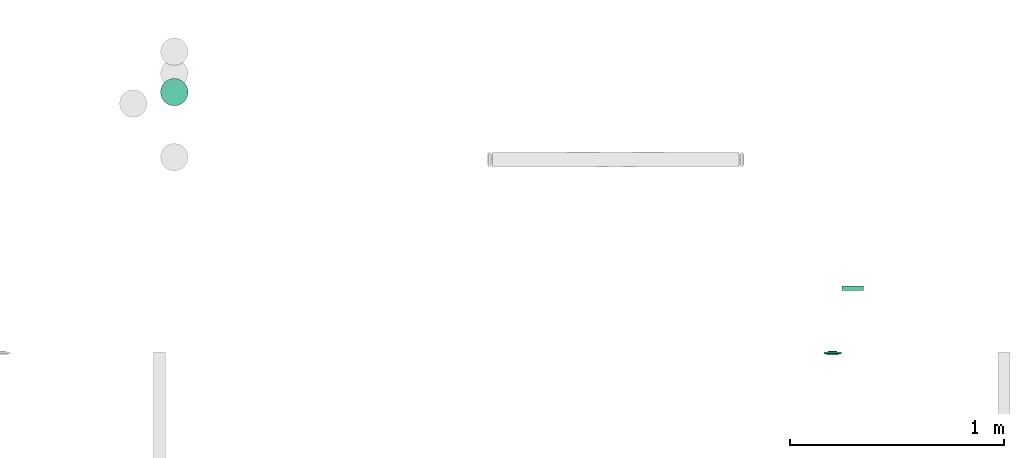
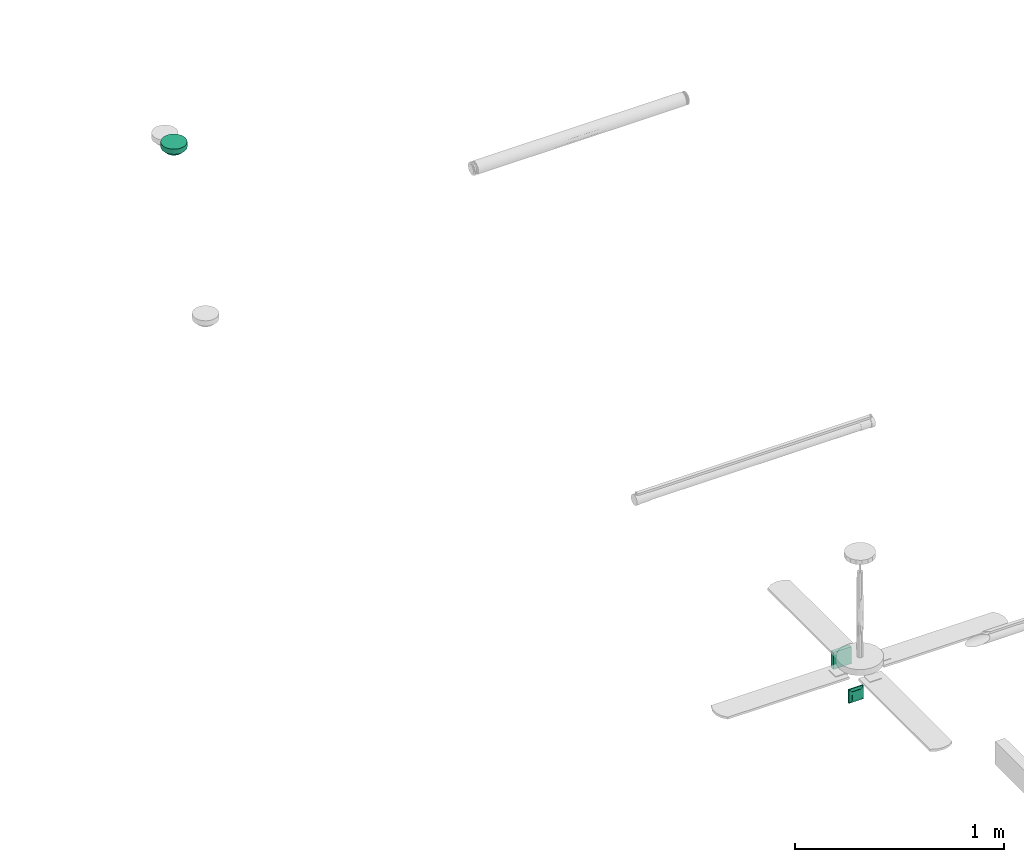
# One storey, part 141 of 153: 3 flow terminals.
"""IFC2X3 building model written with IfcOpenShell, lengths in metres."""

from ifc_helpers import new_model, entity, si_unit, converted_unit, derived_unit, direction, frame, origin, origin_2d_with_axis, place, context, subcontext, project, spatial, rectangle, extrude, faceted_brep, source, transform, mapped, type_object, type_shapes, element, save


model = new_model("IFC2X3")

# Units and contexts
model_context = context("Model", 3, precision=1e-05, world=origin(), true_north=direction((6.12303176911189e-17, 1.0)))
body_context = subcontext(model_context, "Body", "Model", "MODEL_VIEW")
ifc_project = project(units=[si_unit("LENGTHUNIT", "METRE"), si_unit("AREAUNIT", "SQUARE_METRE"), si_unit("VOLUMEUNIT", "CUBIC_METRE"), converted_unit("PLANEANGLEUNIT", "DEGREE", entity("IfcRatioMeasure", 0.0174532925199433), si_unit("PLANEANGLEUNIT", "RADIAN"), dimensions=[0, 0, 0, 0, 0, 0, 0]), si_unit("MASSUNIT", "GRAM", prefix="KILO"), derived_unit("MASSDENSITYUNIT", [(si_unit("MASSUNIT", "GRAM", prefix="KILO"), 1), (si_unit("LENGTHUNIT", "METRE"), -3)]), si_unit("TIMEUNIT", "SECOND"), si_unit("FREQUENCYUNIT", "HERTZ"), si_unit("THERMODYNAMICTEMPERATUREUNIT", "DEGREE_CELSIUS"), derived_unit("THERMALTRANSMITTANCEUNIT", [(si_unit("MASSUNIT", "GRAM", prefix="KILO"), 1), (si_unit("THERMODYNAMICTEMPERATUREUNIT", "KELVIN"), -1), (si_unit("TIMEUNIT", "SECOND"), -3)]), derived_unit("VOLUMETRICFLOWRATEUNIT", [(si_unit("LENGTHUNIT", "METRE"), 3), (si_unit("TIMEUNIT", "SECOND"), -1)]), si_unit("ELECTRICCURRENTUNIT", "AMPERE"), si_unit("ELECTRICVOLTAGEUNIT", "VOLT"), si_unit("POWERUNIT", "WATT"), si_unit("FORCEUNIT", "NEWTON"), si_unit("ILLUMINANCEUNIT", "LUX"), si_unit("LUMINOUSFLUXUNIT", "LUMEN"), si_unit("LUMINOUSINTENSITYUNIT", "CANDELA"), derived_unit("USERDEFINED", [(si_unit("MASSUNIT", "GRAM", prefix="KILO"), -1), (si_unit("LENGTHUNIT", "METRE"), -2), (si_unit("TIMEUNIT", "SECOND"), 3), (si_unit("LUMINOUSFLUXUNIT", "LUMEN"), 1)]), derived_unit("LINEARVELOCITYUNIT", [(si_unit("LENGTHUNIT", "METRE"), 1), (si_unit("TIMEUNIT", "SECOND"), -1)]), si_unit("PRESSUREUNIT", "PASCAL"), derived_unit("USERDEFINED", [(si_unit("LENGTHUNIT", "METRE"), -2), (si_unit("MASSUNIT", "GRAM", prefix="KILO"), 1), (si_unit("TIMEUNIT", "SECOND"), -2)])], contexts=[model_context])

# Site, building, storey
site_placement = place(None, origin())
site = spatial("IfcSite", under=ifc_project, at=site_placement, Name="Default", CompositionType="ELEMENT")
building_placement = place(site_placement, origin())
building = spatial("IfcBuilding", under=site, at=building_placement, CompositionType="ELEMENT")
storey_placement = place(building_placement, frame((0.0, 0.0, -4.62)))
storey = spatial("IfcBuildingStorey", under=building, at=storey_placement, Name="S02", CompositionType="ELEMENT", Elevation=-4.62)

# Flow terminals
light_fixture_type_1 = type_object("IfcLightFixtureType", Name="Détecteur 360°", PredefinedType="NOTDEFINED")
shared_shape_1 = source(origin(), body_context, "Body", "Brep", [
    faceted_brep([(0.0, -0.0397165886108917, 0.0531256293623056), (0.0, -0.034524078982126, 0.0563702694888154), (-0.0175153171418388, -0.0435914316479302, 0.0478512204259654), (-0.0194029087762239, -0.000878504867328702, 0.0644483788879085), (0.0, 0.0, 0.0669999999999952), (0.0, 0.00603476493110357, 0.0659648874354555), (-0.0174057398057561, -0.0159851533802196, 0.0630502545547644), (-0.0366619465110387, -0.0127227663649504, 0.0549213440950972), (-0.026998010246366, -0.0195753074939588, 0.0584711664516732), (-0.0202403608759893, -0.0335607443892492, 0.054639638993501), (-0.0359767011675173, -0.0348394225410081, 0.0444249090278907), (-0.0276843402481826, -0.0401006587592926, 0.0459804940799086), (-0.0133088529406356, -0.0517577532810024, 0.0400582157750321), (-0.0172617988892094, -0.0486391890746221, 0.042533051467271), (-0.0256912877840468, -0.0533485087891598, 0.0299999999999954), (-0.0462941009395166, -0.0369183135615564, 0.0299999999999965), (0.0, -0.0241390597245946, 0.0628595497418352), (-0.0186245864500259, -0.0267295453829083, 0.0589100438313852), (-0.0139070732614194, -0.0374370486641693, 0.0540817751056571), (0.0, 0.0449090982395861, 0.049880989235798), (-0.0172618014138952, 0.0486391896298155, 0.0425330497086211), (0.0, 0.0397165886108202, 0.0531256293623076), (-0.0186245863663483, 0.0267295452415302, 0.0589100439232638), (-0.0202403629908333, 0.0335607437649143, 0.054639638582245), (-0.0353547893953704, 0.0284533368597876, 0.0494330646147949), (0.0, 0.0120695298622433, 0.0649297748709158), (-0.0249385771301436, 0.0204731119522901, 0.0590841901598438), (-0.0191783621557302, 0.0150189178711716, 0.062775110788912), (-0.0465404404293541, -0.0196510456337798, 0.0438984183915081), (-0.052010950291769, -0.0250471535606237, 0.029999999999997), (-0.0453471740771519, -0.0286501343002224, 0.0397747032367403), (-0.0365036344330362, -0.0226255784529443, 0.0516441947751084), (-0.0175153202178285, 0.0435914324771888, 0.0478512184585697), (-0.0359926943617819, 0.0451334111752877, 0.0299999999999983), (-0.0276843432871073, 0.0401006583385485, 0.0459804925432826), (-0.00849704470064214, -0.0572729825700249, 0.0299999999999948), (0.0, -0.0592123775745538, 0.0299999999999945), (0.0, -0.0545512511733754, 0.0364787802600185), (0.0, -0.049890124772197, 0.0429575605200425), (-0.0169940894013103, -0.055333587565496, 0.0299999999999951), (-0.0359767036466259, 0.0348394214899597, 0.0444249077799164), (-0.025691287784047, 0.0533485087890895, 0.0299999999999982), (-0.0308419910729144, 0.0492409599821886, 0.0299999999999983), (-0.0130265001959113, 0.0514867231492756, 0.040526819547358), (-0.0169940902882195, 0.0553335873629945, 0.029999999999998), (0.0, 0.0498901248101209, 0.0429575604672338), (-0.0353547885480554, -0.0284533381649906, 0.0494330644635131), (0.0, 0.0181042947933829, 0.0638946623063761), (-0.0473669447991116, -0.00128092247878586, 0.0474310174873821), (-0.0485435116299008, -0.00908961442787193, 0.0452357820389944), (-0.0366597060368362, -0.0032867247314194, 0.0563153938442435), (-0.0226425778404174, -0.0107553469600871, 0.0624973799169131), (0.0, -0.00603476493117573, 0.0659648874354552), (0.0, 0.0293315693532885, 0.0596149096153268), (-0.0139070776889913, 0.0374370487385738, 0.0540817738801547), (-0.0449600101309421, 0.018422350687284, 0.0461366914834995), (-0.0453471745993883, 0.0286501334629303, 0.0397747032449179), (-0.0476906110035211, 0.00670602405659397, 0.0466053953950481), (-0.0577277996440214, 0.0131759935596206, 0.0299999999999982), (-0.0577277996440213, 0.00658799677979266, 0.029999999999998), (-0.0577277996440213, 0.0, 0.0299999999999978), (0.0, -0.0449090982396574, 0.0498809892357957), (-0.0308419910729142, -0.049240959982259, 0.0299999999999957), (-0.0359926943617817, -0.0451334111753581, 0.029999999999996), (0.0, 0.0345240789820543, 0.0563702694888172), (-0.0411433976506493, 0.0410258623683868, 0.0299999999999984), (-0.0462941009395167, 0.0369183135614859, 0.0299999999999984), (-0.0491525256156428, -0.03098273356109, 0.0299999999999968), (-0.0577277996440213, -0.0131759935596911, 0.0299999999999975), (0.0, -0.018104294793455, 0.0638946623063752), (-0.0377433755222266, 0.0044838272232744, 0.0554913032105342), (-0.0577277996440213, -0.00658799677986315, 0.0299999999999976), (-0.0385149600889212, 0.0124844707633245, 0.0536578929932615), (-0.0491525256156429, 0.0309827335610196, 0.0299999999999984), (-0.0548693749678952, 0.0191115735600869, 0.0299999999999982), (0.0, 0.0241390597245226, 0.0628595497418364), (-0.014625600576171, 0.0100436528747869, 0.0649170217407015), (-0.0271766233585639, 0.00920278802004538, 0.0609170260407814), (0.0, -0.0120695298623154, 0.0649297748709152), (-0.0520109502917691, 0.0250471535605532, 0.0299999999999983), (-0.0411433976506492, -0.0410258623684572, 0.0299999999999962), (-0.0548693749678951, -0.0191115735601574, 0.0299999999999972), (0.0, -0.0293315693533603, 0.0596149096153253), (0.0, 0.0545512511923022, 0.0364787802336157), (0.0, 0.0592123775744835, 0.0299999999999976), (-0.00849704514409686, 0.057272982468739, 0.0299999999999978), (-0.0127455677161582, 0.0563032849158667, 0.0299999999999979), (-0.0213426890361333, 0.054341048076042, 0.0299999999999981), (0.0175153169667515, 0.0435914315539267, 0.0478512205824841), (0.0194029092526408, 0.000878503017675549, 0.0644483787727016), (0.017405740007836, 0.0159851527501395, 0.0630502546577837), (0.0366619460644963, 0.012722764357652, 0.0549213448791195), (0.0269980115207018, 0.0195753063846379, 0.0584711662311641), (0.0202403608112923, 0.0335607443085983, 0.0546396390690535), (0.0359767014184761, 0.0348394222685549, 0.0444249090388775), (0.0276843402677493, 0.0401006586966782, 0.0459804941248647), (0.0133088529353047, 0.0517577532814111, 0.0400582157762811), (0.0172617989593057, 0.0486391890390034, 0.0425330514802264), (0.0256912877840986, 0.0533485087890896, 0.0299999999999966), (0.0462941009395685, 0.0369183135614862, 0.0299999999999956), (0.00849704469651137, 0.0572729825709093, 0.0299999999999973), (0.0169940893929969, 0.0553335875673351, 0.029999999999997), (0.0172617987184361, -0.0486391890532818, 0.0425330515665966), (0.025691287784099, -0.0533485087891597, 0.0299999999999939), (0.0308419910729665, -0.0492409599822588, 0.0299999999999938), (0.0175153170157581, -0.0435914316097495, 0.0478512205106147), (0.0186245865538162, -0.0267295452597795, 0.0589100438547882), (0.0202403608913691, -0.03356074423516, 0.0546396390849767), (0.0353547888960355, -0.0284533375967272, 0.0494330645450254), (0.0249385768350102, -0.0204731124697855, 0.0590841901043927), (0.0191783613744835, -0.0150189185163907, 0.062775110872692), (0.0465404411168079, 0.0196510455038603, 0.0438984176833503), (0.0577277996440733, 0.0131759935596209, 0.0299999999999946), (0.0548693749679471, 0.0191115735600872, 0.0299999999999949), (0.0520109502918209, 0.0250471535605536, 0.0299999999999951), (0.0365036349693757, 0.0226255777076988, 0.0516441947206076), (0.0186245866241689, 0.0267295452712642, 0.0589100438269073), (0.0359926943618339, -0.0451334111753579, 0.0299999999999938), (0.0276843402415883, -0.0401006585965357, 0.0459804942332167), (0.0139070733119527, 0.0374370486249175, 0.0540817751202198), (0.0359767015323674, -0.0348394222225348, 0.044424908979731), (0.0226425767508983, 0.0107553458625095, 0.0624973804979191), (0.0169940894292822, -0.0553335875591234, 0.0299999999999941), (0.0130264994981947, -0.0514867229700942, 0.0405268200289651), (0.0453471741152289, 0.0286501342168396, 0.039774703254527), (0.0353547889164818, 0.0284533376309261, 0.0494330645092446), (0.0473669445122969, 0.00128092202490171, 0.0474310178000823), (0.0485435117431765, 0.00908961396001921, 0.0452357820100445), (0.0366597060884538, 0.00328672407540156, 0.0563153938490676), (0.0139070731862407, -0.0374370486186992, 0.0540817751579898), (0.0449600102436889, -0.018422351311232, 0.0461366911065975), (0.0453471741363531, -0.0286501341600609, 0.039774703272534), (0.0476906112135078, -0.00670602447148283, 0.046605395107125), (0.0577277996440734, -0.0131759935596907, 0.0299999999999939), (0.0577277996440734, -0.00658799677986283, 0.0299999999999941), (0.0577277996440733, 0.0, 0.0299999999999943), (0.0308419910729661, 0.0492409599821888, 0.0299999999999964), (0.0359926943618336, 0.0451334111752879, 0.0299999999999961), (0.0411433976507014, -0.041025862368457, 0.0299999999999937), (0.0462941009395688, -0.0369183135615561, 0.0299999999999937), (0.0491525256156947, 0.0309827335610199, 0.0299999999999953), (0.037743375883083, -0.00448382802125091, 0.0554913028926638), (0.0577277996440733, 0.00658799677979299, 0.0299999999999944), (0.0385149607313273, -0.0124844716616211, 0.0536578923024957), (0.049152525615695, -0.0309827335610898, 0.0299999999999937), (0.0548693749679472, -0.0191115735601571, 0.0299999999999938), (0.0146256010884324, -0.0100436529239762, 0.0649170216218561), (0.0271766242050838, -0.00920278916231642, 0.0609170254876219), (0.0520109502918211, -0.0250471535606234, 0.0299999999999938), (0.041143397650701, 0.0410258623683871, 0.0299999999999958), (0.00849704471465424, -0.0572729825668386, 0.0299999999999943), (0.0127455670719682, -0.056303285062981, 0.0299999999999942), (0.0213426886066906, -0.0543410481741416, 0.029999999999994), (0.0, 0.0, 0.0299999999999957)], [[[0, 1, 2]], [[3, 4, 5]], [[6, 7, 8]], [[9, 10, 11]], [[12, 13, 14]], [[10, 15, 11]], [[9, 16, 17]], [[18, 9, 11]], [[19, 20, 21]], [[22, 23, 24]], [[25, 26, 27]], [[28, 29, 30]], [[8, 31, 17]], [[32, 33, 34]], [[35, 36, 37, 38, 39]], [[23, 40, 24]], [[20, 41, 42]], [[19, 43, 20]], [[44, 43, 45]], [[20, 32, 21]], [[30, 10, 46]], [[22, 26, 47]], [[48, 49, 50]], [[3, 51, 52]], [[53, 54, 23]], [[55, 24, 56]], [[57, 58, 59, 60]], [[13, 61, 0]], [[13, 0, 2]], [[2, 62, 13]], [[18, 2, 1]], [[2, 11, 63]], [[32, 64, 21]], [[32, 42, 33]], [[34, 33, 65, 66]], [[20, 42, 32]], [[54, 32, 34]], [[28, 30, 31]], [[10, 67, 15]], [[49, 68, 28]], [[8, 17, 69]], [[7, 6, 51]], [[28, 31, 7]], [[57, 48, 70]], [[58, 57, 55]], [[48, 71, 49]], [[70, 48, 50]], [[3, 50, 51]], [[55, 26, 24]], [[72, 57, 70]], [[26, 55, 72]], [[56, 40, 73]], [[56, 74, 55]], [[47, 75, 22]], [[52, 4, 3]], [[7, 50, 49]], [[5, 76, 3]], [[70, 3, 77]], [[51, 78, 52]], [[26, 25, 47]], [[76, 25, 27]], [[23, 22, 75]], [[26, 22, 24]], [[53, 64, 54]], [[23, 34, 40]], [[66, 40, 34]], [[40, 66, 73]], [[56, 73, 79, 74]], [[72, 27, 26]], [[40, 56, 24]], [[23, 75, 53]], [[69, 17, 16]], [[78, 6, 69]], [[46, 10, 9]], [[46, 9, 17]], [[50, 7, 51]], [[30, 29, 67]], [[80, 63, 11, 15]], [[28, 68, 81, 29]], [[10, 30, 67]], [[30, 46, 31]], [[82, 18, 1]], [[82, 16, 9]], [[28, 7, 49]], [[12, 39, 38]], [[61, 13, 12]], [[83, 84, 85, 86, 44, 45]], [[43, 41, 20]], [[44, 87, 41, 43]], [[32, 54, 64]], [[23, 54, 34]], [[9, 18, 82]], [[2, 18, 11]], [[39, 12, 14]], [[38, 61, 12]], [[62, 2, 63]], [[62, 14, 13]], [[17, 31, 46]], [[7, 31, 8]], [[48, 60, 71]], [[71, 68, 49]], [[60, 48, 57]], [[3, 70, 50]], [[72, 70, 77]], [[72, 77, 27]], [[55, 57, 72]], [[74, 58, 55]], [[76, 27, 77]], [[3, 76, 77]], [[25, 76, 5]], [[69, 6, 8]], [[78, 51, 6]], [[45, 43, 19]], [[21, 64, 88]], [[89, 4, 52]], [[90, 91, 92]], [[93, 94, 95]], [[96, 97, 98]], [[94, 99, 95]], [[100, 84, 83, 45, 101]], [[102, 103, 104]], [[102, 105, 0]], [[106, 107, 108]], [[78, 109, 110]], [[111, 112, 113, 114]], [[92, 115, 116]], [[105, 117, 118]], [[119, 93, 95]], [[107, 120, 108]], [[89, 121, 5]], [[122, 123, 38]], [[61, 123, 102]], [[93, 75, 116]], [[124, 94, 125]], [[106, 109, 69]], [[126, 127, 128]], [[61, 102, 0]], [[82, 129, 107]], [[130, 108, 131]], [[132, 133, 134, 135]], [[97, 19, 21]], [[97, 21, 88]], [[88, 136, 97]], [[119, 88, 64]], [[88, 95, 137]], [[105, 1, 0]], [[105, 104, 117]], [[118, 117, 138, 139]], [[102, 104, 105]], [[129, 105, 118]], [[111, 124, 115]], [[94, 140, 99]], [[127, 112, 111]], [[92, 116, 47]], [[91, 90, 121]], [[111, 115, 91]], [[132, 126, 141]], [[133, 132, 130]], [[126, 142, 127]], [[141, 126, 128]], [[89, 128, 121]], [[130, 109, 108]], [[143, 132, 141]], [[109, 130, 143]], [[131, 120, 144]], [[131, 145, 130]], [[69, 16, 106]], [[5, 4, 89]], [[91, 128, 127]], [[52, 146, 89]], [[141, 89, 147]], [[121, 25, 5]], [[109, 78, 69]], [[146, 78, 110]], [[107, 106, 16]], [[109, 106, 108]], [[82, 1, 129]], [[107, 118, 120]], [[139, 120, 118]], [[120, 139, 144]], [[131, 144, 148, 145]], [[143, 110, 109]], [[120, 131, 108]], [[107, 16, 82]], [[47, 116, 75]], [[25, 90, 47]], [[125, 94, 93]], [[125, 93, 116]], [[128, 91, 121]], [[124, 114, 140]], [[149, 137, 95, 99]], [[111, 114, 124]], [[94, 124, 140]], [[124, 125, 115]], [[53, 119, 64]], [[53, 75, 93]], [[111, 91, 127]], [[96, 101, 45]], [[19, 97, 96]], [[37, 36, 150, 151, 122, 38]], [[123, 103, 102]], [[122, 152, 103, 123]], [[105, 129, 1]], [[107, 129, 118]], [[93, 119, 53]], [[88, 119, 95]], [[101, 96, 98]], [[45, 19, 96]], [[136, 88, 137]], [[136, 98, 97]], [[116, 115, 125]], [[91, 115, 92]], [[126, 135, 142]], [[142, 112, 127]], [[135, 126, 132]], [[89, 141, 128]], [[143, 141, 147]], [[143, 147, 110]], [[130, 132, 143]], [[145, 133, 130]], [[146, 110, 147]], [[89, 146, 147]], [[78, 146, 52]], [[47, 90, 92]], [[25, 121, 90]], [[38, 123, 61]], [[153, 66, 65]], [[153, 65, 33]], [[153, 33, 42]], [[153, 42, 41]], [[153, 41, 87]], [[153, 73, 66]], [[153, 79, 73]], [[153, 74, 79]], [[153, 58, 74]], [[153, 87, 44]], [[153, 44, 86]], [[153, 86, 85]], [[153, 85, 84]], [[153, 84, 100]], [[153, 59, 58]], [[153, 60, 59]], [[153, 71, 60]], [[153, 68, 71]], [[153, 81, 68]], [[153, 29, 81]], [[153, 67, 29]], [[153, 15, 67]], [[153, 80, 15]], [[153, 63, 80]], [[153, 62, 63]], [[153, 14, 62]], [[153, 39, 14]], [[153, 35, 39]], [[153, 36, 35]], [[153, 100, 101]], [[153, 101, 98]], [[153, 98, 136]], [[153, 136, 137]], [[153, 137, 149]], [[153, 149, 99]], [[153, 99, 140]], [[153, 140, 114]], [[153, 114, 113]], [[153, 113, 112]], [[153, 112, 142]], [[153, 150, 36]], [[153, 151, 150]], [[153, 122, 151]], [[153, 152, 122]], [[153, 103, 152]], [[153, 104, 103]], [[153, 117, 104]], [[153, 138, 117]], [[153, 139, 138]], [[153, 144, 139]], [[153, 148, 144]], [[153, 145, 148]], [[153, 133, 145]], [[153, 142, 135]], [[153, 135, 134]], [[153, 134, 133]]]),
    faceted_brep([(0.0165644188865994, -0.0618192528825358, 0.029999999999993), (0.0320000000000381, -0.0554256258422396, 0.0299999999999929), (0.0452548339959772, -0.0452548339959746, 0.0299999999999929), (0.0554256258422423, -0.0320000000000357, 0.029999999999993), (0.0618192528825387, -0.016564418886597, 0.0299999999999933), (0.0640000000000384, 0.0, 0.0299999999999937), (0.0618192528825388, 0.016564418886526, 0.0299999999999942), (0.0554256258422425, 0.0319999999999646, 0.0299999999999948), (0.0452548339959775, 0.0452548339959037, 0.0299999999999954), (0.0320000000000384, 0.0554256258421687, 0.0299999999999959), (0.0165644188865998, 0.061819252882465, 0.0299999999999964), (0.0, 0.0639999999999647, 0.0299999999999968), (-0.0165644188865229, 0.061819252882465, 0.0299999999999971), (-0.0319999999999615, 0.0554256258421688, 0.0299999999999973), (-0.0452548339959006, 0.0452548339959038, 0.0299999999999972), (-0.0554256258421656, 0.0319999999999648, 0.0299999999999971), (-0.0618192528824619, 0.0165644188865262, 0.0299999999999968), (-0.0639999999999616, 0.0, 0.0299999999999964), (-0.061819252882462, -0.0165644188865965, 0.0299999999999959), (-0.0554256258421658, -0.0320000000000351, 0.0299999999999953), (-0.0452548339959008, -0.0452548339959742, 0.0299999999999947), (-0.0319999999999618, -0.0554256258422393, 0.0299999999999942), (-0.0165644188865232, -0.0618192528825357, 0.0299999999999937), (0.0, -0.0640000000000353, 0.0299999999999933), (0.0165644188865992, 0.0618192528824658, 0.0), (0.0320000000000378, 0.0554256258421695, 0.0), (0.0452548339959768, 0.0452548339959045, 0.0), (0.0554256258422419, 0.0319999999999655, 0.0), (0.0618192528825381, 0.0165644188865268, 0.0), (0.0640000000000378, 0.0, 0.0), (0.061819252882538, -0.0165644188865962, 0.0), (0.0554256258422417, -0.0320000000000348, 0.0), (0.0452548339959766, -0.0452548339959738, 0.0), (0.0320000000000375, -0.0554256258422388, 0.0), (0.0165644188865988, -0.061819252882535, 0.0), (0.0, -0.0640000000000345, 0.0), (-0.0165644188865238, -0.0618192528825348, 0.0), (-0.0319999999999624, -0.0554256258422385, 0.0), (-0.0452548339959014, -0.0452548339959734, 0.0), (-0.0554256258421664, -0.0320000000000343, 0.0), (-0.0618192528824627, -0.0165644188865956, 0.0), (-0.0639999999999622, 0.0, 0.0), (-0.0618192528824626, 0.016564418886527, 0.0), (-0.0554256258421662, 0.0319999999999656, 0.0), (-0.0452548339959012, 0.0452548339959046, 0.0), (-0.0319999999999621, 0.0554256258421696, 0.0), (-0.0165644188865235, 0.0618192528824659, 0.0), (0.0, 0.0639999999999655, 0.0)], [[[0, 1, 2, 3, 4, 5, 6, 7, 8, 9, 10, 11, 12, 13, 14, 15, 16, 17, 18, 19, 20, 21, 22, 23]], [[24, 25, 26, 27, 28, 29, 30, 31, 32, 33, 34, 35, 36, 37, 38, 39, 40, 41, 42, 43, 44, 45, 46, 47]], [[40, 18, 17, 41]], [[39, 19, 18, 40]], [[21, 20, 38, 37]], [[39, 38, 20, 19]], [[22, 21, 37, 36]], [[23, 22, 36, 35]], [[34, 0, 23, 35]], [[33, 1, 0, 34]], [[3, 2, 32, 31]], [[33, 32, 2, 1]], [[4, 3, 31, 30]], [[5, 4, 30, 29]], [[28, 6, 5, 29]], [[27, 7, 6, 28]], [[9, 8, 26, 25]], [[27, 26, 8, 7]], [[10, 9, 25, 24]], [[11, 10, 24, 47]], [[46, 12, 11, 47]], [[45, 13, 12, 46]], [[42, 41, 17, 16]], [[44, 14, 13, 45]], [[43, 15, 14, 44]], [[43, 42, 16, 15]]]),
])
type_shapes(light_fixture_type_1, [shared_shape_1])
flow_terminal_1_placement = place(storey_placement, frame((57.489877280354, -184.000738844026, 4.62), z_axis=(0.0, 0.0, -1.0), x_axis=(1.0, 0.0, 0.0)))
element("IfcFlowTerminal", 1, at=flow_terminal_1_placement, inside=storey, type_object=light_fixture_type_1, Name="INT - Détecteur 360°:Détecteur 360°", ObjectType="INT - Détecteur 360°:Détecteur 360°", context=body_context, shape_type="MappedRepresentation", body=[
    mapped(shared_shape_1, transform((0.0, 0.0, 0.0), scale=1.0)),
])
light_fixture_type_2 = type_object("IfcLightFixtureType", Name="Default", PredefinedType="NOTDEFINED")
shared_shape_2 = source(origin(), body_context, "Body", "SweptSolid", [
    extrude(rectangle(XDim=0.1, YDim=0.1, at=origin_2d_with_axis()), frame((0.0, 0.0, 0.0), z_axis=(0.0, 0.0, 1.0), x_axis=(0.0, 1.0, 0.0)), (0.0, 0.0, 1.0), 0.02),
])
type_shapes(light_fixture_type_2, [shared_shape_2])
flow_terminal_2_placement = place(storey_placement, frame((60.6553065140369, -184.926487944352, 1.05000000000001), z_axis=(0.0, 1.0, 0.0), x_axis=(-1.0, 0.0, 0.0)))
element("IfcFlowTerminal", 2, at=flow_terminal_2_placement, inside=storey, type_object=light_fixture_type_2, Name="E_Reader_Badge 1_F_MEPcontent:Default", ObjectType="E_Reader_Badge 1_F_MEPcontent:Default", context=body_context, shape_type="MappedRepresentation", body=[
    mapped(shared_shape_2, transform((0.0, 0.0, 0.0), scale=1.0)),
])
light_fixture_type_3 = type_object("IfcLightFixtureType", Name="VV IP21", PredefinedType="NOTDEFINED")
shared_shape_3 = source(origin(), body_context, "Body", "Brep", [
    faceted_brep([(0.0, 0.0209999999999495, -0.00460000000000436), (0.00543519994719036, 0.02028444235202, -0.00460000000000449), (0.0105000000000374, 0.0181865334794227, -0.00460000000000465), (0.0148492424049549, 0.014849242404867, -0.00460000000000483), (0.0181865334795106, 0.0104999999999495, -0.00460000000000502), (0.0202844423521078, 0.00543519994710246, -0.00460000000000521), (0.0210000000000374, 0.0, -0.00460000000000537), (0.0202844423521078, -0.00543519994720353, -0.00460000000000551), (0.0181865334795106, -0.0105000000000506, -0.0046000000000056), (0.0148492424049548, -0.0148492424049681, -0.00460000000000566), (0.0105000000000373, -0.0181865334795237, -0.00460000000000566), (0.00543519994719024, -0.0202844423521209, -0.00460000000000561), (0.0, -0.0210000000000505, -0.00460000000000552), (-0.00543519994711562, -0.0202844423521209, -0.00460000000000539), (-0.0104999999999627, -0.0181865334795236, -0.00460000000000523), (-0.0148492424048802, -0.0148492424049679, -0.00460000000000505), (-0.0181865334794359, -0.0105000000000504, -0.00460000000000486), (-0.0202844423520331, -0.00543519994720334, -0.00460000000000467), (-0.0209999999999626, 0.0, -0.00460000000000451), (-0.020284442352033, 0.00543519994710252, -0.00460000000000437), (-0.0181865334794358, 0.0104999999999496, -0.00460000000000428), (-0.0148492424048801, 0.0148492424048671, -0.00460000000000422), (-0.0104999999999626, 0.0181865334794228, -0.00460000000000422), (-0.00543519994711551, 0.02028444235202, -0.00460000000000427), (-0.020284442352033, -0.00543519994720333, 0.0), (-0.0209999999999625, 0.0, 0.0), (-0.0181865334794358, -0.0105000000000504, 0.0), (-0.0104999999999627, -0.0181865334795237, 0.0), (-0.0148492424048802, -0.0148492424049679, 0.0), (-0.00543519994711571, -0.020284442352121, 0.0), (0.0, -0.0210000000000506, 0.0), (0.00543519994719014, -0.0202844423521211, 0.0), (0.0105000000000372, -0.018186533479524, 0.0), (0.0181865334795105, -0.0105000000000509, 0.0), (0.0148492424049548, -0.0148492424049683, 0.0), (0.0202844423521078, -0.00543519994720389, 0.0), (0.0210000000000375, 0.0, 0.0), (0.0202844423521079, 0.00543519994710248, 0.0), (0.0181865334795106, 0.0104999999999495, 0.0), (0.0105000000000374, 0.0181865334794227, 0.0), (0.0148492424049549, 0.014849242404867, 0.0), (0.00543519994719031, 0.0202844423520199, 0.0), (0.0, 0.0209999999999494, 0.0), (-0.00543519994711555, 0.0202844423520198, 0.0), (-0.0104999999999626, 0.0181865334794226, 0.0), (-0.0181865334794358, 0.0104999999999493, 0.0), (-0.0148492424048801, 0.0148492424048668, 0.0), (-0.020284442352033, 0.00543519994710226, 0.0)], [[[0, 1, 2, 3, 4, 5, 6, 7, 8, 9, 10, 11, 12, 13, 14, 15, 16, 17, 18, 19, 20, 21, 22, 23]], [[17, 24, 25, 18]], [[16, 26, 24, 17]], [[27, 28, 15, 14]], [[16, 15, 28, 26]], [[29, 27, 14, 13]], [[30, 29, 13, 12]], [[11, 31, 30, 12]], [[10, 32, 31, 11]], [[33, 34, 9, 8]], [[10, 9, 34, 32]], [[35, 33, 8, 7]], [[36, 35, 7, 6]], [[5, 37, 36, 6]], [[4, 38, 37, 5]], [[39, 40, 3, 2]], [[4, 3, 40, 38]], [[41, 39, 2, 1]], [[42, 41, 1, 0]], [[23, 43, 42, 0]], [[22, 44, 43, 23]], [[45, 46, 21, 20]], [[22, 21, 46, 44]], [[47, 45, 20, 19]], [[25, 47, 19, 18]], [[25, 24, 26, 28, 27, 29, 30, 31, 32, 34, 33, 35, 36, 37, 38, 40, 39, 41, 42, 43, 44, 46, 45, 47]]]),
    faceted_brep([(0.0270000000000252, 0.026999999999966, 0.0103999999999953), (-0.0269999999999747, 0.026999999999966, 0.0103999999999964), (-0.0269999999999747, -0.0270000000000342, 0.0103999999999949), (0.0270000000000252, -0.0270000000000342, 0.0103999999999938), (-0.0254999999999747, 0.0258096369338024, 0.0103999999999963), (0.0255000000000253, 0.0258096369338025, 0.0103999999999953), (0.0255000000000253, -0.0255000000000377, 0.0103999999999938), (-0.0254999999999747, -0.0255000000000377, 0.0103999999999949), (0.0270000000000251, 0.0269999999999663, 0.00199999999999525), (0.0270000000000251, -0.0270000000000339, 0.00199999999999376), (-0.0269999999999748, -0.0270000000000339, 0.00199999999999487), (-0.0269999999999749, 0.0269999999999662, 0.00199999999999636), (0.0255000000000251, 0.0258096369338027, 0.00199999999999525), (-0.0254999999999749, 0.0258096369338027, 0.0019999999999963), (-0.0254999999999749, -0.0255000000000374, 0.00199999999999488), (0.0255000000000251, -0.0255000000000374, 0.00199999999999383)], [[[0, 1, 2, 3], [4, 5, 6, 7]], [[8, 9, 10, 11], [12, 13, 14, 15]], [[1, 0, 8, 11]], [[2, 1, 11, 10]], [[3, 2, 10, 9]], [[0, 3, 9, 8]], [[12, 5, 4, 13]], [[13, 4, 7, 14]], [[14, 7, 6, 15]], [[5, 12, 15, 6]]]),
    faceted_brep([(0.0250000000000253, 0.0253096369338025, 0.00659999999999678), (0.0250000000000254, 0.0253096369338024, 0.0117095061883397), (0.0250000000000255, -0.0245000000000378, 0.0142232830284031), (0.0250000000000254, -0.0250000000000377, 0.0117095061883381), (0.0250000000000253, -0.0250000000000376, 0.00659999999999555), (-0.0249999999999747, 0.0253096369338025, 0.00659999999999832), (-0.0249999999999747, -0.0250000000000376, 0.00659999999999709), (-0.0249999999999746, -0.0250000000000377, 0.0117095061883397), (-0.0249999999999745, -0.0245000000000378, 0.0142232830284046), (-0.0249999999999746, 0.0253096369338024, 0.0117095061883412)], [[[0, 1, 2, 3, 4]], [[5, 6, 7, 8, 9]], [[1, 0, 5, 9]], [[2, 1, 9, 8]], [[3, 2, 8, 7]], [[4, 3, 7, 6]], [[0, 4, 6, 5]]]),
    faceted_brep([(0.027000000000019, 0.0269999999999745, 0.00659999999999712), (-0.0269999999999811, 0.0269999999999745, 0.00659999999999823), (-0.026999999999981, -0.0270000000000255, 0.00659999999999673), (0.027000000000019, -0.0270000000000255, 0.00659999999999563), (0.040350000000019, 0.0403499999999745, 0.00659999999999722), (0.040350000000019, -0.0403500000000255, 0.00659999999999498), (-0.0403499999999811, -0.0403500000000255, 0.00659999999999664), (-0.0403499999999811, 0.0403499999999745, 0.00659999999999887), (-0.026999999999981, 0.0269999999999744, 0.0103999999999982), (0.027000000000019, 0.0269999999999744, 0.0103999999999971), (-0.026999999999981, -0.0270000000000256, 0.0103999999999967), (0.027000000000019, -0.0270000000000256, 0.0103999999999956)], [[[0, 1, 2, 3], [4, 5, 6, 7]], [[4, 7, 8, 9]], [[7, 6, 10, 8]], [[6, 5, 11, 10]], [[5, 4, 9, 11]], [[0, 9, 8, 1]], [[1, 8, 10, 2]], [[2, 10, 11, 3]], [[9, 0, 3, 11]]], outer=[[False, True], [True], [True], [True], [True], [True], [True], [True], [True]]),
    faceted_brep([(0.040350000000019, 0.0403499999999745, 0.00659999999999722), (-0.0403499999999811, 0.0403499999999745, 0.00659999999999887), (-0.0403499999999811, -0.0403500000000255, 0.00659999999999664), (0.040350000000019, -0.0403500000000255, 0.00659999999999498), (-0.0269999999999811, 0.0269999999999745, 0.00659999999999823), (0.0270000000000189, 0.0269999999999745, 0.00659999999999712), (0.0270000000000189, -0.0270000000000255, 0.00659999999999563), (-0.0269999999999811, -0.0270000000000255, 0.00659999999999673), (0.0403500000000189, 0.0403499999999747, 0.0), (0.0403500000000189, -0.0403500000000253, 0.0), (-0.0403499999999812, -0.0403500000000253, 0.0), (-0.0403499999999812, 0.0403499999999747, 0.0), (0.0270000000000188, 0.0269999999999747, 0.0), (-0.0269999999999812, 0.0269999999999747, 0.0), (-0.0269999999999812, -0.0270000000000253, 0.0), (0.0270000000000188, -0.0270000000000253, 0.0)], [[[0, 1, 2, 3], [4, 5, 6, 7]], [[8, 9, 10, 11], [12, 13, 14, 15]], [[1, 0, 8, 11]], [[2, 1, 11, 10]], [[3, 2, 10, 9]], [[0, 3, 9, 8]], [[12, 5, 4, 13]], [[13, 4, 7, 14]], [[14, 7, 6, 15]], [[5, 12, 15, 6]]]),
])
type_shapes(light_fixture_type_3, [shared_shape_3])
flow_terminal_3_placement = place(storey_placement, frame((60.5617436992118, -185.214488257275, 1.05000000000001), z_axis=(0.0, -1.0, 0.0), x_axis=(1.0, 0.0, 0.0)))
element("IfcFlowTerminal", 3, at=flow_terminal_3_placement, inside=storey, type_object=light_fixture_type_3, Name="INT_Inter VV:VV IP21", ObjectType="INT_Inter VV:VV IP21", context=body_context, shape_type="MappedRepresentation", body=[
    mapped(shared_shape_3, transform((0.0, 0.0, 0.0), scale=1.0)),
])

save(model, "model.ifc")
